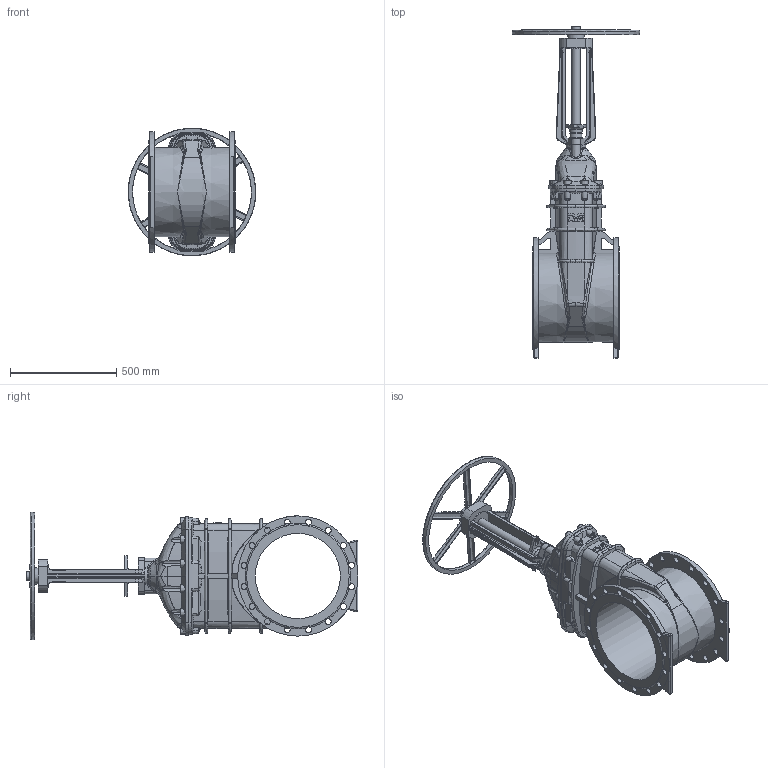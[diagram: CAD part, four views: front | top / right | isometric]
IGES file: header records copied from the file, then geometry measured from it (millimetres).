
Start section: SolidWorks IGES file using analytic representation for surfaces
Global section: file name: \\avksan2\techshare\PBM outline export from Enovia\O_21_34_DN400_40XXXXX close_AA0.igs; native system: SolidWorks 2012; preprocessor: SolidWorks 2012; author: pbm; date: 200212.105005; units: millimetre
Bounding box: 598.51 x 1559.5 x 598.51 mm (x, y, z)
Surface area: 3099624.2 mm2 (no closed solid volume)
Topology: 0 solids, 0 shells, 859 faces, 4875 edges, 4795 vertices
Faces by surface type: revolution 432, bspline 427
